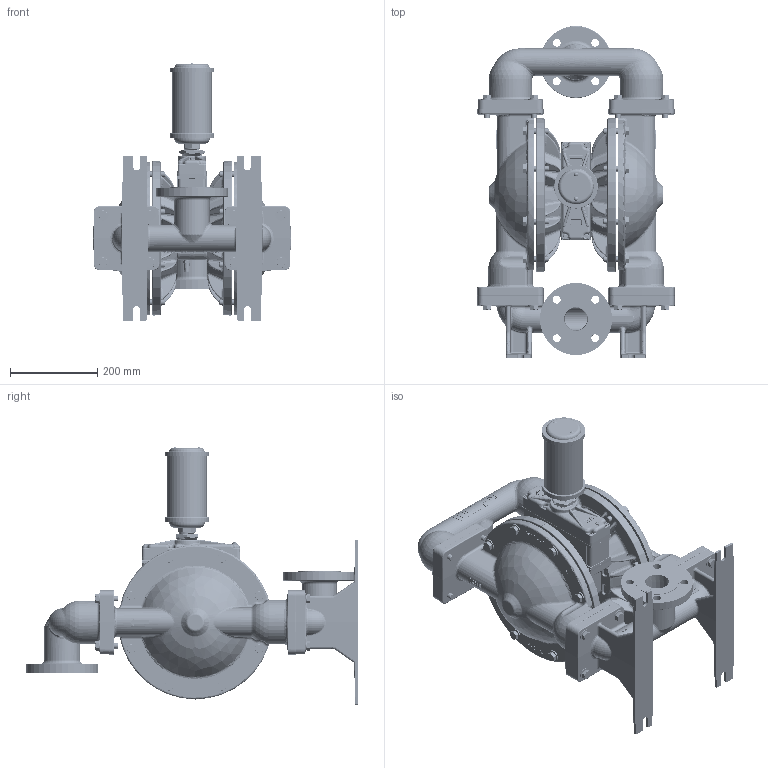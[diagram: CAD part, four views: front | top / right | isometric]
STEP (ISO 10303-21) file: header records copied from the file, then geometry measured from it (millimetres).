
FILE_DESCRIPTION((''),'2;1');
FILE_NAME('PS830_DI_TOP_SW0003','2016-09-21T',('Nathan.hale'),(''),'PRO/ENGINEER BY PARAMETRIC TECHNOLOGY CORPORATION, 2015360','PRO/ENGINEER BY PARAMETRIC TECHNOLOGY CORPORATION, 2015360','');
FILE_SCHEMA(('CONFIG_CONTROL_DESIGN'));
Products named in the file (1): PS830_DI_TOP_SW0003
Bounding box: 452.44 x 760.73 x 590.42 mm (x, y, z)
Volume: 15097864.7 mm3; surface area: 2668522.1 mm2
Topology: 6 solids, 6 shells, 15183 faces, 39869 edges, 25370 vertices
Faces by surface type: plane 9651, bspline 1812, cylinder 1659, cone 912, torus 747, sphere 242, extrusion 160
Entity records: 829234 total; most frequent: CARTESIAN_POINT 467859, ORIENTED_EDGE 79648, DIRECTION 67807, EDGE_CURVE 39824, VECTOR 27771, LINE 27611, VERTEX_POINT 25369, AXIS2_PLACEMENT_3D 20018
